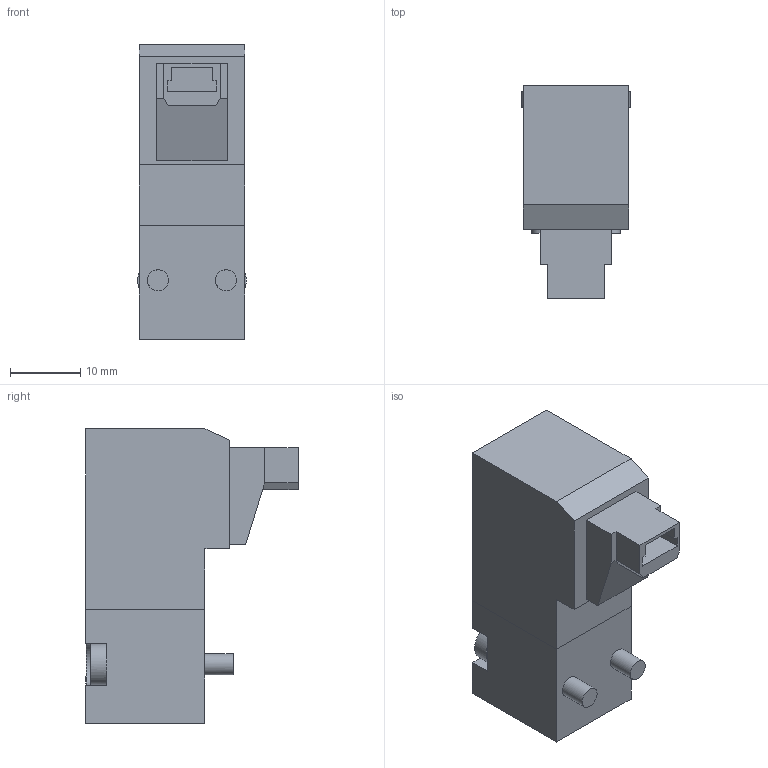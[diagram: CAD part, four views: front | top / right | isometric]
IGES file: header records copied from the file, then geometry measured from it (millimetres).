
Global section: file name: N3##_R6#-8; native system: Autodesk Inventor 2014; preprocessor: unknown; author: A. Manieri; organization: Pneumax S.p.A.; date: 20160913.134803; units: millimetre
Bounding box: 15.5 x 30.3 x 42 mm (x, y, z)
Volume: 12223.5 mm3; surface area: 4087.8 mm2
Topology: 1 solids, 1 shells, 94 faces, 242 edges, 158 vertices
Faces by surface type: bspline 94
